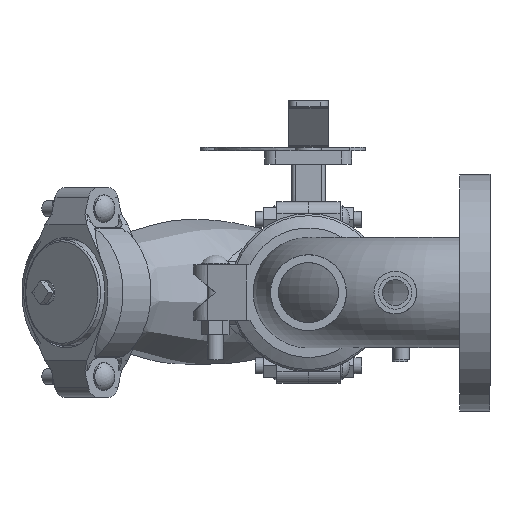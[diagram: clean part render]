
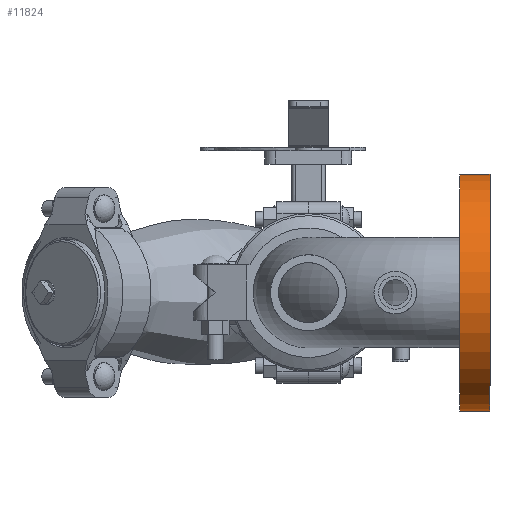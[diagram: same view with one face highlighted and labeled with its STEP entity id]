
A CAD part, front view. The second image highlights one B-rep face of the part: STEP entity #11824.
In plain terms, the highlighted cylindrical face has radius 95.25 mm (diameter 190.5 mm), a full revolution.
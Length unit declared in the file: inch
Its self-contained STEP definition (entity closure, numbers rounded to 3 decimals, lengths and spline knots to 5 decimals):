
#1203=LINE('',#23576,#2031);
#2031=VECTOR('',#16676,3.75);
#2256=CYLINDRICAL_SURFACE('',#13344,3.75);
#3000=FACE_OUTER_BOUND('',#3740,.T.);
#3740=EDGE_LOOP('',(#10192,#10193,#10194,#10195,#10196,#10197));
#4334=CIRCLE('',#13341,3.75);
#4335=CIRCLE('',#13342,3.75);
#4337=CIRCLE('',#13345,3.75);
#4338=CIRCLE('',#13346,3.75);
#5411=VERTEX_POINT('',#23565);
#5412=VERTEX_POINT('',#23566);
#5414=VERTEX_POINT('',#23572);
#5415=VERTEX_POINT('',#23573);
#7012=EDGE_CURVE('',#5411,#5412,#4334,.T.);
#7013=EDGE_CURVE('',#5412,#5411,#4335,.T.);
#7015=EDGE_CURVE('',#5414,#5415,#4337,.T.);
#7016=EDGE_CURVE('',#5415,#5414,#4338,.T.);
#7017=EDGE_CURVE('',#5415,#5412,#1203,.T.);
#10192=ORIENTED_EDGE('',*,*,#7015,.F.);
#10193=ORIENTED_EDGE('',*,*,#7016,.F.);
#10194=ORIENTED_EDGE('',*,*,#7017,.T.);
#10195=ORIENTED_EDGE('',*,*,#7013,.T.);
#10196=ORIENTED_EDGE('',*,*,#7012,.T.);
#10197=ORIENTED_EDGE('',*,*,#7017,.F.);
#11824=ADVANCED_FACE('',(#3000),#2256,.T.);
#13341=AXIS2_PLACEMENT_3D('',#23567,#16664,#16665);
#13342=AXIS2_PLACEMENT_3D('',#23568,#16666,#16667);
#13344=AXIS2_PLACEMENT_3D('',#23571,#16670,#16671);
#13345=AXIS2_PLACEMENT_3D('',#23574,#16672,#16673);
#13346=AXIS2_PLACEMENT_3D('',#23575,#16674,#16675);
#16664=DIRECTION('center_axis',(1.,0.,0.));
#16665=DIRECTION('ref_axis',(0.,0.,-1.));
#16666=DIRECTION('center_axis',(1.,0.,0.));
#16667=DIRECTION('ref_axis',(0.,0.,-1.));
#16670=DIRECTION('center_axis',(1.,0.,0.));
#16671=DIRECTION('ref_axis',(0.,1.,0.));
#16672=DIRECTION('center_axis',(1.,0.,0.));
#16673=DIRECTION('ref_axis',(0.,0.,-1.));
#16674=DIRECTION('center_axis',(1.,0.,0.));
#16675=DIRECTION('ref_axis',(0.,0.,-1.));
#16676=DIRECTION('',(-1.,0.,0.));
#23565=CARTESIAN_POINT('',(4.79,3.75,0.));
#23566=CARTESIAN_POINT('',(4.79,-3.75,0.));
#23567=CARTESIAN_POINT('Origin',(4.79,0.,0.));
#23568=CARTESIAN_POINT('Origin',(4.79,0.,0.));
#23571=CARTESIAN_POINT('Origin',(5.27,0.,0.));
#23572=CARTESIAN_POINT('',(5.75,3.75,0.));
#23573=CARTESIAN_POINT('',(5.75,-3.75,0.));
#23574=CARTESIAN_POINT('Origin',(5.75,0.,0.));
#23575=CARTESIAN_POINT('Origin',(5.75,0.,0.));
#23576=CARTESIAN_POINT('',(5.27,-3.75,0.));
